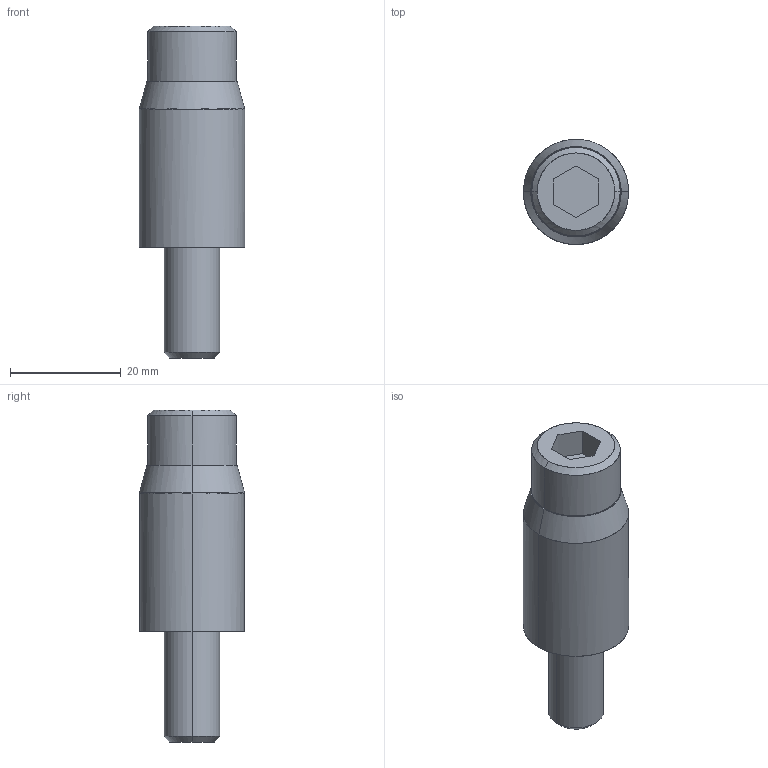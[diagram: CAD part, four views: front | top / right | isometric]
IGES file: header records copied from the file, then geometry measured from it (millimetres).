
Global section: file name: E:\UnigraphicsGraphicData\MISUMI_PRESS-PARTS\IGES\3d_sgc19-40_00797_r00.igs; native system: NX V5.0; preprocessor: UGS NX IGES V5.0; author: MISUMI; date: 20110105.162538; units: millimetre
Bounding box: 19 x 19 x 60 mm (x, y, z)
Surface area: 4838.6 mm2 (no closed solid volume)
Topology: 0 solids, 0 shells, 27 faces, 180 edges, 180 vertices
Faces by surface type: bspline 27
